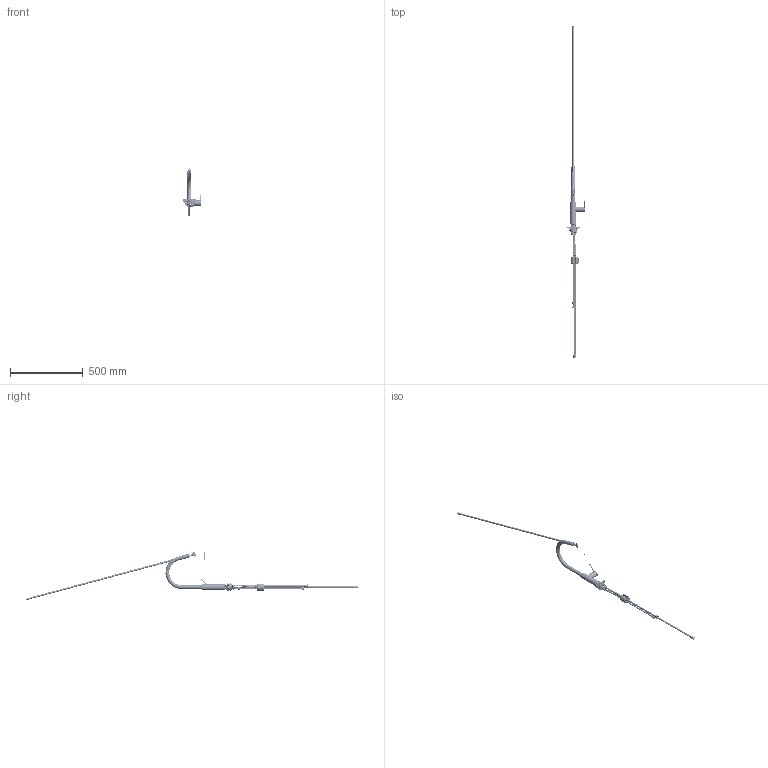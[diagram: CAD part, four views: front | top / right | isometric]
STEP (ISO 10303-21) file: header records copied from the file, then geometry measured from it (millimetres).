
FILE_DESCRIPTION((''),'2;1');
FILE_NAME('AS63395-00-01_ASM','2021-06-03T14:58:08',('zhuliangliang'),('Lota'),'CREO PARAMETRIC BY PTC INC, 2018420','CREO PARAMETRIC BY PTC INC, 2018420','');
FILE_SCHEMA(('CONFIG_CONTROL_DESIGN'));
Length unit declared in the file: millimetre
Products named in the file (74): 63395-01-00; 63268-04-B0; 63056-05-00; 69641-33-00; 69923-05-00; 63042-04-00; 865-20-10; 6024-04-00; 63042-02-01; 63048-03-00; 407A-02-00; 62761-06-00; 67340-05-00; 891-06-00; 63395-03-00; 62989-06-B0; 62505-50-02; 62505-05-A1; 62363-06-03; 62505-05-H1_ASM; 60148-02-04; 62505-05-C1_ASM; F046M-02-A0; 63268-06-00; 891-29-D0; 69444-04-01; 62970-09-A1; 62362-03-01; D1115-03-04; 62970-09-A0_ASM; 62485-03-00; F532-24-00; 6140-13-00; F8026-32-00; 825-38-A0; 65023-30-T0; 825-37-T0; 63200-12-C0; 63200-12-H0; 55311-10-01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
Assembly tree (85 placements, depth 3):
  AS63395-00-01_ASM
    63395-01-00
    63268-04-B0
    63056-05-00
    69641-33-00
    69923-05-00
    63042-04-00
    865-20-10
    6024-04-00
    63042-02-01
    63048-03-00
    407A-02-00
    62761-06-00
    67340-05-00
    891-06-00
    63395-03-00
    62989-06-B0
    62505-05-H1_ASM
      62505-50-02
      62505-05-A1
      62363-06-03
    62505-05-C1_ASM
      60148-02-04
      62505-05-A1
      62363-06-03
    F046M-02-A0  x3
    63268-06-00
    891-29-D0
    62970-09-A0_ASM
      69444-04-01
      62970-09-A1
      62362-03-01
      D1115-03-04
    62485-03-00
    F532-24-00
    6140-13-00
    F8026-32-00
    825-38-A0
    65023-30-T0
    825-37-T0  x2
    63200-12-C0
    63200-12-H0
    55311-10-01
    55311-00-02
    62757-11-00
    62760-07-I0_ASM
      67000-51-I4
      62760-07-07  x2
      62760-07-I4
      62760-07-I5
      62760-07-I3
      6149-14-08
      67000-51-I3
      02103-00575
      62760-07-I6
      62760-07-I7
    55501-00-11
    63129-08-00_ASM
      63129-08-01
      63129-08-02
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Bounding box: 125.97 x 2284.13 x 333.76 mm (x, y, z)
Volume: 506166.5 mm3; surface area: 1010529.7 mm2
Topology: 85 solids, 171 shells, 15124 faces, 40251 edges, 25759 vertices
Faces by surface type: plane 6219, cylinder 3005, bspline 2880, cone 1193, torus 1022, sphere 486, extrusion 319
Entity records: 711455 total; most frequent: CARTESIAN_POINT 378841, ORIENTED_EDGE 75764, DIRECTION 57446, EDGE_CURVE 38138, VERTEX_POINT 24410, AXIS2_PLACEMENT_3D 19706, VECTOR 18034, LINE 17787
